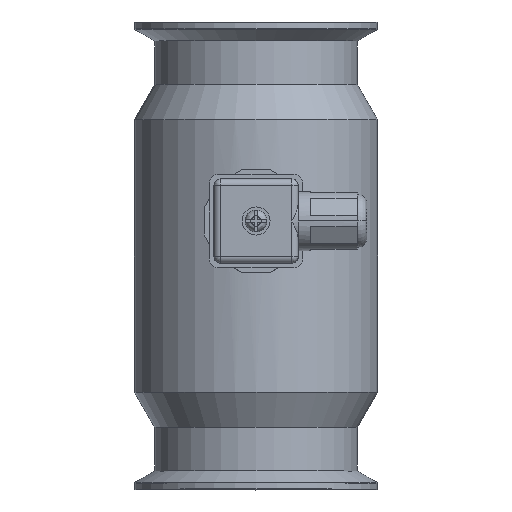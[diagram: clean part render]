
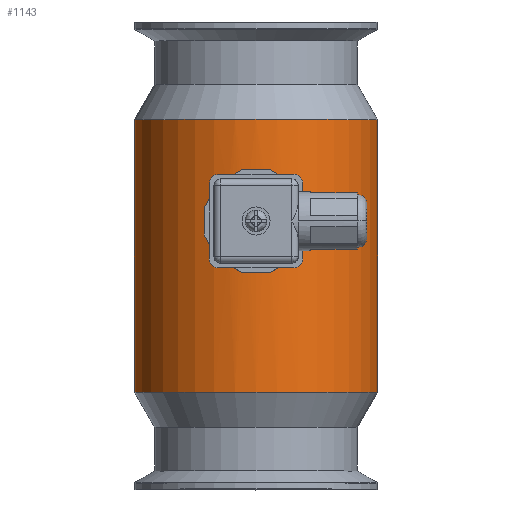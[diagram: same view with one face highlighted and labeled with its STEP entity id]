
A CAD part, top view. The second image highlights one B-rep face of the part: STEP entity #1143.
In plain terms, the highlighted cylindrical face has radius 39 mm (diameter 78 mm), a full revolution.
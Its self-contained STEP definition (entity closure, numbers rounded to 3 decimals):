
#208=B_SPLINE_CURVE_WITH_KNOTS('',3,(#15377,#15378,#15379,#15380),
 .UNSPECIFIED.,.F.,.F.,(4,4),(0.,1.),.UNSPECIFIED.);
#209=B_SPLINE_CURVE_WITH_KNOTS('',3,(#15382,#15383,#15384,#15385),
 .UNSPECIFIED.,.F.,.F.,(4,4),(0.,1.),.UNSPECIFIED.);
#210=B_SPLINE_CURVE_WITH_KNOTS('',3,(#15387,#15388,#15389,#15390),
 .UNSPECIFIED.,.F.,.F.,(4,4),(0.,1.),.UNSPECIFIED.);
#211=B_SPLINE_CURVE_WITH_KNOTS('',3,(#15394,#15395,#15396,#15397),
 .UNSPECIFIED.,.F.,.F.,(4,4),(0.,1.),.UNSPECIFIED.);
#212=B_SPLINE_CURVE_WITH_KNOTS('',3,(#15399,#15400,#15401,#15402),
 .UNSPECIFIED.,.F.,.F.,(4,4),(0.,1.),.UNSPECIFIED.);
#213=B_SPLINE_CURVE_WITH_KNOTS('',3,(#15404,#15405,#15406,#15407),
 .UNSPECIFIED.,.F.,.F.,(4,4),(0.,1.),.UNSPECIFIED.);
#362=CYLINDRICAL_SURFACE('',#8386,39.);
#1143=ADVANCED_FACE('',(#1876,#1877,#1878),#362,.T.);
#1694=CIRCLE('',#8384,39.);
#1695=CIRCLE('',#8385,39.);
#1876=FACE_BOUND('',#2321,.T.);
#1877=FACE_BOUND('',#2322,.T.);
#1878=FACE_BOUND('',#2323,.T.);
#2321=EDGE_LOOP('',(#4316));
#2322=EDGE_LOOP('',(#4317));
#2323=EDGE_LOOP('',(#4318,#4319,#4320,#4321,#4322,#4323,#4324,#4325));
#4316=ORIENTED_EDGE('',*,*,#6379,.T.);
#4317=ORIENTED_EDGE('',*,*,#6380,.T.);
#4318=ORIENTED_EDGE('',*,*,#6381,.T.);
#4319=ORIENTED_EDGE('',*,*,#6382,.T.);
#4320=ORIENTED_EDGE('',*,*,#6383,.T.);
#4321=ORIENTED_EDGE('',*,*,#6384,.T.);
#4322=ORIENTED_EDGE('',*,*,#6385,.T.);
#4323=ORIENTED_EDGE('',*,*,#6386,.T.);
#4324=ORIENTED_EDGE('',*,*,#6387,.T.);
#4325=ORIENTED_EDGE('',*,*,#6388,.T.);
#5323=VERTEX_POINT('',#15371);
#5324=VERTEX_POINT('',#15373);
#5325=VERTEX_POINT('',#15375);
#5326=VERTEX_POINT('',#15376);
#5327=VERTEX_POINT('',#15381);
#5328=VERTEX_POINT('',#15386);
#5329=VERTEX_POINT('',#15391);
#5330=VERTEX_POINT('',#15393);
#5331=VERTEX_POINT('',#15398);
#5332=VERTEX_POINT('',#15403);
#6379=EDGE_CURVE('',#5323,#5323,#1694,.T.);
#6380=EDGE_CURVE('',#5324,#5324,#1695,.T.);
#6381=EDGE_CURVE('',#5325,#5326,#7175,.T.);
#6382=EDGE_CURVE('',#5326,#5327,#208,.T.);
#6383=EDGE_CURVE('',#5327,#5328,#209,.T.);
#6384=EDGE_CURVE('',#5328,#5329,#210,.T.);
#6385=EDGE_CURVE('',#5329,#5330,#7176,.T.);
#6386=EDGE_CURVE('',#5330,#5331,#211,.T.);
#6387=EDGE_CURVE('',#5331,#5332,#212,.T.);
#6388=EDGE_CURVE('',#5332,#5325,#213,.T.);
#7175=LINE('',#15374,#7832);
#7176=LINE('',#15392,#7833);
#7832=VECTOR('',#10267,1.);
#7833=VECTOR('',#10268,1.);
#8384=AXIS2_PLACEMENT_3D('',#15370,#10263,#10264);
#8385=AXIS2_PLACEMENT_3D('',#15372,#10265,#10266);
#8386=AXIS2_PLACEMENT_3D('',#15408,#10269,#10270);
#10263=DIRECTION('',(0.,-1.,0.));
#10264=DIRECTION('',(-1.,0.,0.));
#10265=DIRECTION('',(0.,1.,0.));
#10266=DIRECTION('',(1.,0.,0.));
#10267=DIRECTION('',(0.,-1.,0.));
#10268=DIRECTION('',(0.,1.,0.));
#10269=DIRECTION('',(0.,-1.,0.));
#10270=DIRECTION('',(-1.,0.,0.));
#15370=CARTESIAN_POINT('',(25.484,69.142,-131.5));
#15371=CARTESIAN_POINT('',(-13.516,69.142,-131.5));
#15372=CARTESIAN_POINT('',(25.484,-18.342,-131.5));
#15373=CARTESIAN_POINT('',(64.484,-18.342,-131.5));
#15374=CARTESIAN_POINT('',(34.259,3283.4,-93.5));
#15375=CARTESIAN_POINT('',(34.259,46.657,-93.5));
#15376=CARTESIAN_POINT('',(34.259,26.143,-93.5));
#15377=CARTESIAN_POINT('',(34.259,26.143,-93.5));
#15378=CARTESIAN_POINT('',(33.052,24.36,-93.221));
#15379=CARTESIAN_POINT('',(31.413,22.903,-92.902));
#15380=CARTESIAN_POINT('',(29.429,22.034,-92.7));
#15381=CARTESIAN_POINT('',(29.429,22.034,-92.7));
#15382=CARTESIAN_POINT('',(29.429,22.034,-92.7));
#15383=CARTESIAN_POINT('',(26.873,21.187,-92.44));
#15384=CARTESIAN_POINT('',(24.093,21.191,-92.44));
#15385=CARTESIAN_POINT('',(21.54,22.044,-92.7));
#15386=CARTESIAN_POINT('',(21.54,22.044,-92.7));
#15387=CARTESIAN_POINT('',(21.54,22.044,-92.7));
#15388=CARTESIAN_POINT('',(19.551,22.921,-92.902));
#15389=CARTESIAN_POINT('',(17.915,24.385,-93.222));
#15390=CARTESIAN_POINT('',(16.709,26.179,-93.5));
#15391=CARTESIAN_POINT('',(16.709,26.179,-93.5));
#15392=CARTESIAN_POINT('',(16.709,3283.4,-93.5));
#15393=CARTESIAN_POINT('',(16.709,46.621,-93.5));
#15394=CARTESIAN_POINT('',(16.709,46.621,-93.5));
#15395=CARTESIAN_POINT('',(17.914,48.413,-93.222));
#15396=CARTESIAN_POINT('',(19.553,49.88,-92.902));
#15397=CARTESIAN_POINT('',(21.54,50.756,-92.7));
#15398=CARTESIAN_POINT('',(21.54,50.756,-92.7));
#15399=CARTESIAN_POINT('',(21.54,50.756,-92.7));
#15400=CARTESIAN_POINT('',(24.093,51.609,-92.44));
#15401=CARTESIAN_POINT('',(26.873,51.613,-92.44));
#15402=CARTESIAN_POINT('',(29.429,50.766,-92.7));
#15403=CARTESIAN_POINT('',(29.429,50.766,-92.7));
#15404=CARTESIAN_POINT('',(29.429,50.766,-92.7));
#15405=CARTESIAN_POINT('',(31.415,49.896,-92.902));
#15406=CARTESIAN_POINT('',(33.051,48.441,-93.221));
#15407=CARTESIAN_POINT('',(34.259,46.657,-93.5));
#15408=CARTESIAN_POINT('',(25.484,3283.4,-131.5));
